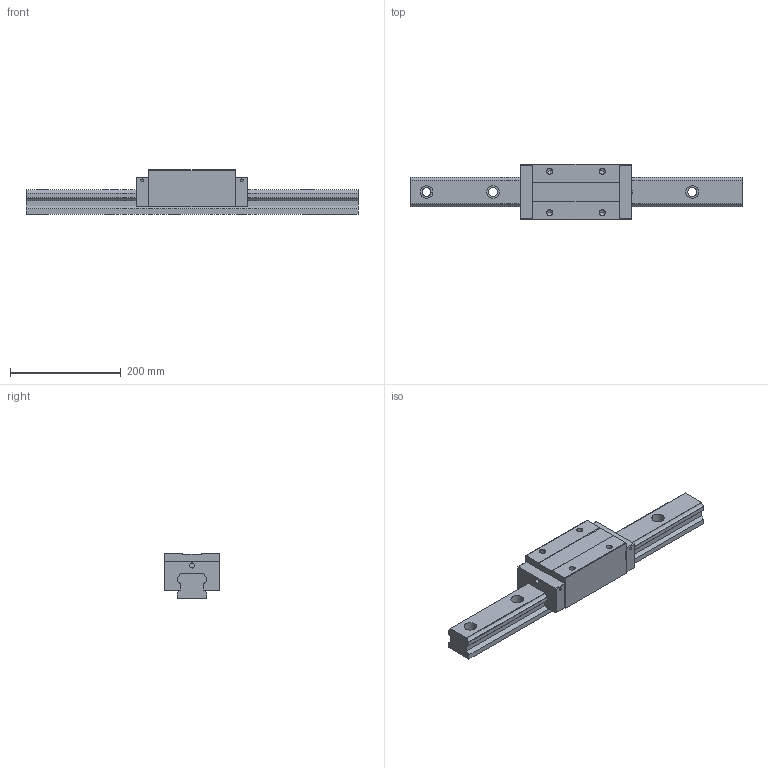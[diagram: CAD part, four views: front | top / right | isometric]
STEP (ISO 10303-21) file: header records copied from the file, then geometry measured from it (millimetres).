
FILE_DESCRIPTION (( 'STEP AP203' ), '1' );
FILE_NAME ('TRH55VE-XN.STEP', '2024-05-17T08:30:39', ( '' ), ( '' ), 'SwSTEP 2.0', 'SolidWorks 2022', '' );
FILE_SCHEMA (( 'CONFIG_CONTROL_DESIGN' ));
Length unit declared in the file: millimetre
Products named in the file (1): TRH55VE-XN
Bounding box: 600 x 100 x 80 mm (x, y, z)
Volume: 2163529.4 mm3; surface area: 229061.9 mm2
Topology: 2 solids, 2 shells, 175 faces, 460 edges, 296 vertices
Faces by surface type: plane 83, cylinder 76, cone 16
Entity records: 5453 total; most frequent: DIRECTION 964, CARTESIAN_POINT 924, ORIENTED_EDGE 904, EDGE_CURVE 452, AXIS2_PLACEMENT_3D 336, VERTEX_POINT 296, LINE 292, VECTOR 292
